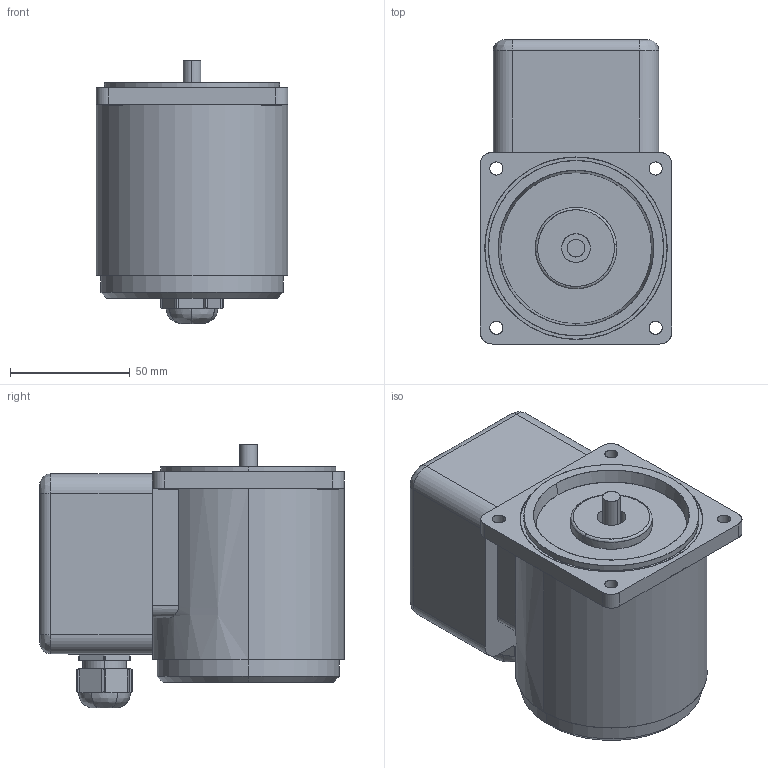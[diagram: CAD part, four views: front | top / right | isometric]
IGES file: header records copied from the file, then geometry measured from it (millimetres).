
Start section: SolidWorks IGES file using analytic representation for surfaces
Bounding box: 80 x 127 x 110.13 mm (x, y, z)
Surface area: 95561 mm2 (no closed solid volume)
Topology: 0 solids, 0 shells, 210 faces, 3804 edges, 3804 vertices
Faces by surface type: bspline 117, revolution 93
